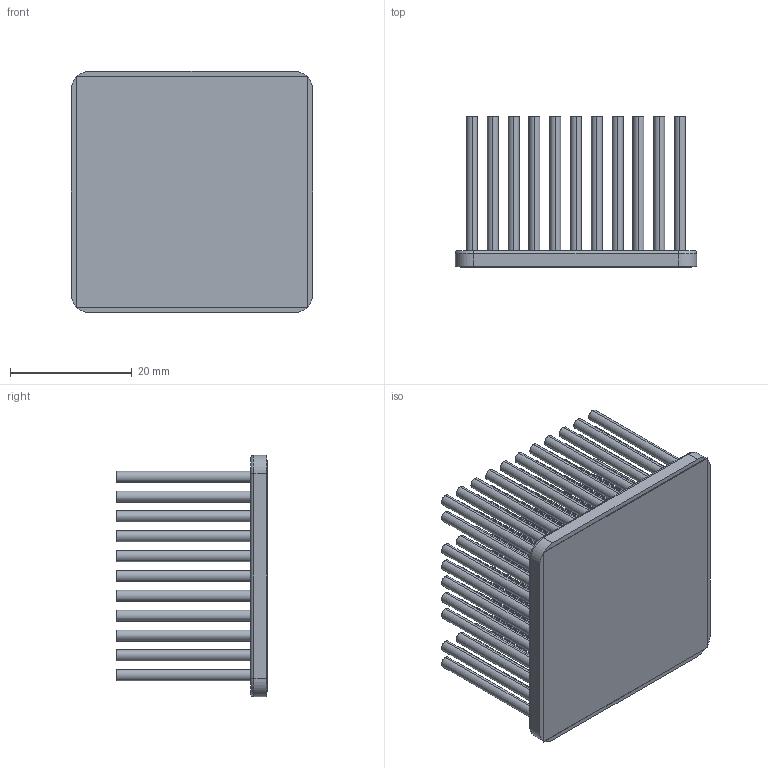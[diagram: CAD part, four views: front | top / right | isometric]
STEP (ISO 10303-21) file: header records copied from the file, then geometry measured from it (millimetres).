
FILE_DESCRIPTION (( 'STEP AP214' ), '1' );
FILE_NAME ('INM40002-25PCU-2.6.STEP', '2023-02-27T17:57:15', ( '' ), ( '' ), 'SwSTEP 2.0', 'SolidWorks 2020', '' );
FILE_SCHEMA (( 'AUTOMOTIVE_DESIGN' ));
Length unit declared in the file: inch
Products named in the file (1): INM40002-25PCU-2.6
Bounding box: 39.6 x 24.73 x 39.6 mm (x, y, z)
Volume: 10558.4 mm3; surface area: 20451.6 mm2
Topology: 2 solids, 2 shells, 363 faces, 730 edges, 484 vertices
Faces by surface type: cylinder 234, plane 125, torus 4
Entity records: 14462 total; most frequent: DIRECTION 1930, CARTESIAN_POINT 1578, ORIENTED_EDGE 1460, AXIS2_PLACEMENT_3D 836, EDGE_CURVE 730, VERTEX_POINT 484, EDGE_LOOP 476, CIRCLE 472
